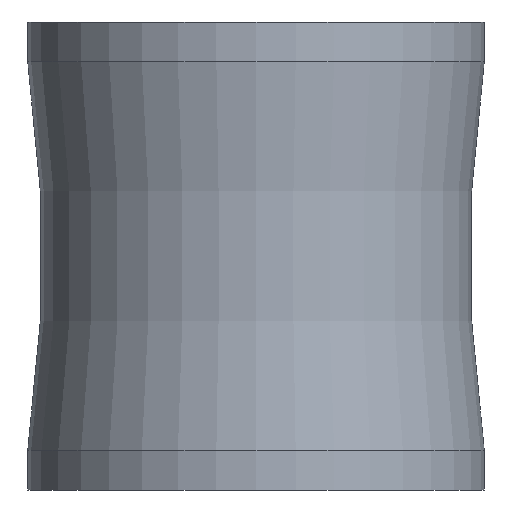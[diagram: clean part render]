
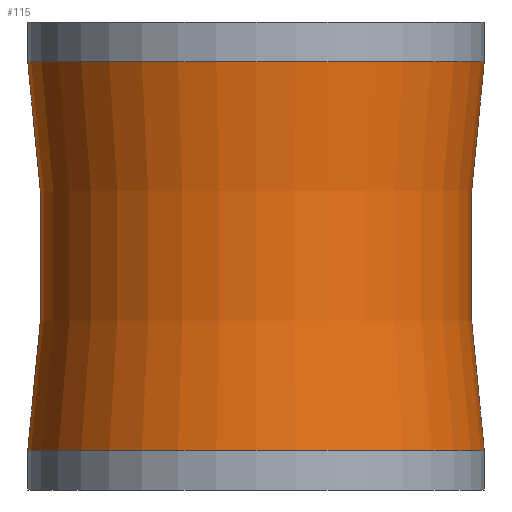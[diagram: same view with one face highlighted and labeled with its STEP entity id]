
A CAD part, front view. The second image highlights one B-rep face of the part: STEP entity #115.
In plain terms, the highlighted toroidal (fillet/blend) face has major radius 269.95 mm and minor radius 232.45 mm.
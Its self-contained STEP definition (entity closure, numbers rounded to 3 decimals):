
#98=TOROIDAL_SURFACE('',#210,269.95,232.45);
#115=ADVANCED_FACE('',(#125),#98,.F.);
#125=FACE_OUTER_BOUND('',#133,.T.);
#133=EDGE_LOOP('',(#151,#152,#153,#154));
#151=ORIENTED_EDGE('',*,*,#179,.F.);
#152=ORIENTED_EDGE('',*,*,#178,.T.);
#153=ORIENTED_EDGE('',*,*,#181,.T.);
#154=ORIENTED_EDGE('',*,*,#182,.F.);
#167=VERTEX_POINT('',#265);
#168=VERTEX_POINT('',#267);
#169=VERTEX_POINT('',#273);
#170=VERTEX_POINT('',#275);
#178=EDGE_CURVE('',#167,#168,#190,.T.);
#179=EDGE_CURVE('',#167,#169,#191,.T.);
#181=EDGE_CURVE('',#168,#170,#193,.T.);
#182=EDGE_CURVE('',#169,#170,#194,.T.);
#190=CIRCLE('',#203,40.);
#191=CIRCLE('',#205,232.45);
#193=CIRCLE('',#207,232.45);
#194=CIRCLE('',#209,40.);
#203=AXIS2_PLACEMENT_3D('',#270,#230,#231);
#205=AXIS2_PLACEMENT_3D('',#272,#234,#235);
#207=AXIS2_PLACEMENT_3D('',#276,#238,#239);
#209=AXIS2_PLACEMENT_3D('',#278,#242,#243);
#210=AXIS2_PLACEMENT_3D('',#279,#244,#245);
#230=DIRECTION('',(0.,0.,1.));
#231=DIRECTION('',(0.,1.,0.));
#234=DIRECTION('',(0.,-1.,0.));
#235=DIRECTION('',(0.947,0.,0.322));
#238=DIRECTION('',(0.,1.,0.));
#239=DIRECTION('',(-0.947,0.,0.322));
#242=DIRECTION('',(0.,0.,1.));
#243=DIRECTION('',(0.,1.,0.));
#244=DIRECTION('',(0.,0.,1.));
#245=DIRECTION('',(1.,0.,0.));
#265=CARTESIAN_POINT('',(-40.,0.,7.));
#267=CARTESIAN_POINT('',(40.,0.,7.));
#270=CARTESIAN_POINT('',(0.,0.,7.));
#272=CARTESIAN_POINT('',(-269.95,0.,41.));
#273=CARTESIAN_POINT('',(-40.,0.,75.));
#275=CARTESIAN_POINT('',(40.,0.,75.));
#276=CARTESIAN_POINT('',(269.95,0.,41.));
#278=CARTESIAN_POINT('',(0.,0.,75.));
#279=CARTESIAN_POINT('',(0.,0.,41.));
